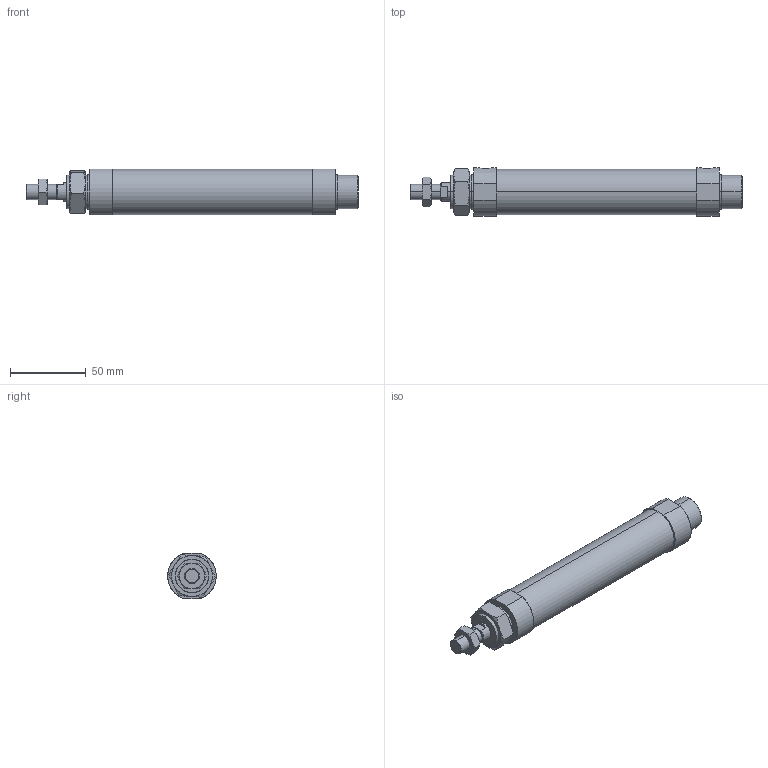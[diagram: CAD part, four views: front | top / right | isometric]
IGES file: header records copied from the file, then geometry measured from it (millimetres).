
Start section: SolidWorks IGES file using analytic representation for surfaces
Global section: file name: C:\Users\Toshiba\Desktop\J#2-25-100-N.IGS; native system: SolidWorks 2014; preprocessor: SolidWorks 2014; author: Toshiba; date: 160308.151554; units: millimetre
Bounding box: 219 x 32 x 30 mm (x, y, z)
Surface area: 24367.1 mm2 (no closed solid volume)
Topology: 0 solids, 0 shells, 97 faces, 1744 edges, 1740 vertices
Faces by surface type: bspline 61, revolution 36
